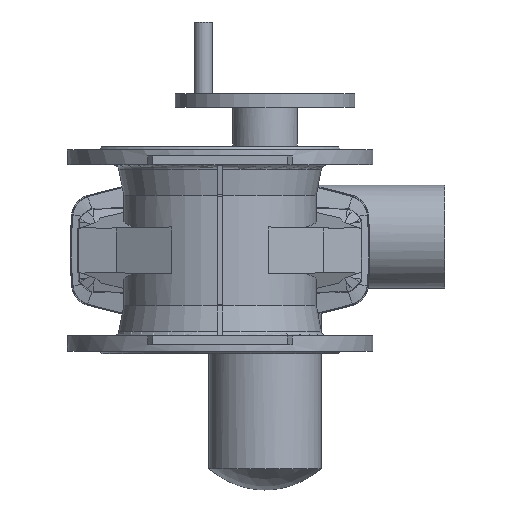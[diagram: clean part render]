
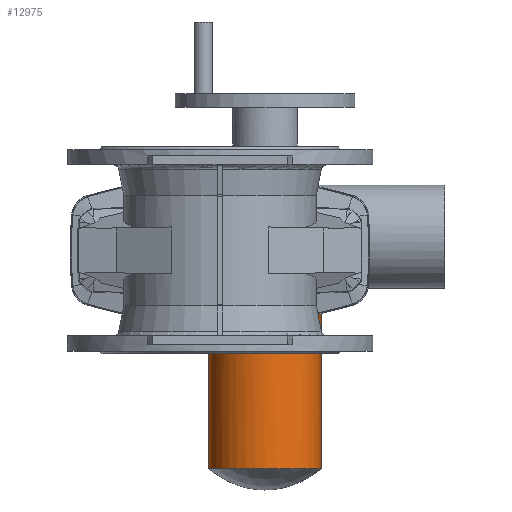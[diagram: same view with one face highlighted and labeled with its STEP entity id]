
A CAD part, front view. The second image highlights one B-rep face of the part: STEP entity #12975.
In plain terms, the highlighted cylindrical face has radius 62.5 mm (diameter 125 mm), a full revolution.
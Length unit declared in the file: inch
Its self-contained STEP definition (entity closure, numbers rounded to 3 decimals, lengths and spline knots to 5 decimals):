
#362 = ORIENTED_EDGE ( 'NONE', *, *, #5127, .T. ) ;
#363 = ORIENTED_EDGE ( 'NONE', *, *, #5097, .F. ) ;
#386 = EDGE_LOOP ( 'NONE', ( #362 ) ) ;
#391 = EDGE_LOOP ( 'NONE', ( #363, #1562 ) ) ;
#1562 = ORIENTED_EDGE ( 'NONE', *, *, #5119, .T. ) ;
#1690 = AXIS2_PLACEMENT_3D ( 'NONE', #5701, #5702, #5703 ) ;
#1706 = AXIS2_PLACEMENT_3D ( 'NONE', #12009, #12010, #12011 ) ;
#5097 = EDGE_CURVE ( 'NONE', #12326, #12353, #5930, .T. ) ;
#5119 = EDGE_CURVE ( 'NONE', #12326, #12353, #11228, .T. ) ;
#5127 = EDGE_CURVE ( 'NONE', #10317, #10317, #5958, .T. ) ;
#5701 = CARTESIAN_POINT ( 'NONE',  ( 1.9685, 21.10236, -2.36787 ) ) ;
#5702 = DIRECTION ( 'NONE',  ( 0., 0., 1. ) ) ;
#5703 = DIRECTION ( 'NONE',  ( 1., 0., 0. ) ) ;
#5886 = CARTESIAN_POINT ( 'NONE',  ( 0.58341, 19.06609, -2.39213 ) ) ;
#5894 = CARTESIAN_POINT ( 'NONE',  ( 0.66926, 19.01271, -2.36787 ) ) ;
#5930 = CIRCLE ( 'NONE', #1690, 2.46063 ) ;
#5958 = CIRCLE ( 'NONE', #1706, 2.46063 ) ;
#6900 = FACE_OUTER_BOUND ( 'NONE', #386, .T. ) ;
#6905 = FACE_OUTER_BOUND ( 'NONE', #391, .T. ) ;
#6907 = CYLINDRICAL_SURFACE ( 'NONE', #8407, 2.46063 ) ;
#8407 = AXIS2_PLACEMENT_3D ( 'NONE', #9714, #9710, #9711 ) ;
#9609 = CARTESIAN_POINT ( 'NONE',  ( 0.66926, 19.01271, -2.36787 ) ) ;
#9628 = CARTESIAN_POINT ( 'NONE',  ( 0.66926, 23.19202, -2.36787 ) ) ;
#9710 = DIRECTION ( 'NONE',  ( 0., 0., 1. ) ) ;
#9711 = DIRECTION ( 'NONE',  ( 1., 0., 0. ) ) ;
#9714 = CARTESIAN_POINT ( 'NONE',  ( 1.9685, 21.10236, 0.59055 ) ) ;
#10317 = VERTEX_POINT ( 'NONE', #10509 ) ;
#10509 = CARTESIAN_POINT ( 'NONE',  ( 4.42913, 21.10236, -9.56172 ) ) ;
#11228 = B_SPLINE_CURVE_WITH_KNOTS ( 'NONE', 3,
 ( #5894, #5886, #11912, #11913, #11914, #11915, #11916, #11917, #11918, #11919, #11920, #11921, #11922, #11923, #11924, #11925, #11926, #11927, #11928, #11929, #11930, #11931, #11932, #11933, #11934, #11935, #11936, #11937, #11938, #11939, #11940, #11941, #11942, #11943, #11944, #11945, #11946, #11947, #11948, #11949, #11950, #11951, #11952, #11953, #11954, #11955, #11956, #11957, #11958, #11959, #11960, #11961 ),
 .UNSPECIFIED., .F., .F.,
 ( 4, 2, 2, 2, 2, 2, 2, 2, 2, 2, 2, 2, 2, 2, 2, 2, 2, 2, 2, 2, 2, 2, 2, 2, 2, 4 ),
 ( 0.47887, 0.48677, 0.48875, 0.49072, 0.49467, 0.50257, 0.50454, 0.50652, 0.51047, 0.51837, 0.52232, 0.52626, 0.53416, 0.54206, 0.54404, 0.54601, 0.54996, 0.55786, 0.56181, 0.56576, 0.57366, 0.58155, 0.58945, 0.59735, 0.6013, 0.60525 ),
 .UNSPECIFIED. ) ;
#11912 = CARTESIAN_POINT ( 'NONE',  ( 0.49975, 19.12541, -2.41075 ) ) ;
#11913 = CARTESIAN_POINT ( 'NONE',  ( 0.39857, 19.20745, -2.42822 ) ) ;
#11914 = CARTESIAN_POINT ( 'NONE',  ( 0.37849, 19.22427, -2.43143 ) ) ;
#11915 = CARTESIAN_POINT ( 'NONE',  ( 0.33902, 19.25841, -2.43725 ) ) ;
#11916 = CARTESIAN_POINT ( 'NONE',  ( 0.31958, 19.27578, -2.43987 ) ) ;
#11917 = CARTESIAN_POINT ( 'NONE',  ( 0.26214, 19.32874, -2.44693 ) ) ;
#11918 = CARTESIAN_POINT ( 'NONE',  ( 0.22502, 19.36522, -2.45058 ) ) ;
#11919 = CARTESIAN_POINT ( 'NONE',  ( 0.11722, 19.47809, -2.45889 ) ) ;
#11920 = CARTESIAN_POINT ( 'NONE',  ( 0.05005, 19.55793, -2.46091 ) ) ;
#11921 = CARTESIAN_POINT ( 'NONE',  ( -0.02781, 19.66357, -2.46052 ) ) ;
#11922 = CARTESIAN_POINT ( 'NONE',  ( -0.0431, 19.68503, -2.4603 ) ) ;
#11923 = CARTESIAN_POINT ( 'NONE',  ( -0.0729, 19.72829, -2.4596 ) ) ;
#11924 = CARTESIAN_POINT ( 'NONE',  ( -0.08741, 19.75011, -2.45912 ) ) ;
#11925 = CARTESIAN_POINT ( 'NONE',  ( -0.12983, 19.81612, -2.45737 ) ) ;
#11926 = CARTESIAN_POINT ( 'NONE',  ( -0.15661, 19.86087, -2.45577 ) ) ;
#11927 = CARTESIAN_POINT ( 'NONE',  ( -0.23249, 19.9973, -2.45015 ) ) ;
#11928 = CARTESIAN_POINT ( 'NONE',  ( -0.27718, 20.09118, -2.44528 ) ) ;
#11929 = CARTESIAN_POINT ( 'NONE',  ( -0.33532, 20.23645, -2.43775 ) ) ;
#11930 = CARTESIAN_POINT ( 'NONE',  ( -0.35322, 20.28562, -2.4352 ) ) ;
#11931 = CARTESIAN_POINT ( 'NONE',  ( -0.38597, 20.3855, -2.43023 ) ) ;
#11932 = CARTESIAN_POINT ( 'NONE',  ( -0.40067, 20.43571, -2.42783 ) ) ;
#11933 = CARTESIAN_POINT ( 'NONE',  ( -0.43982, 20.58707, -2.42115 ) ) ;
#11934 = CARTESIAN_POINT ( 'NONE',  ( -0.45937, 20.68898, -2.41741 ) ) ;
#11935 = CARTESIAN_POINT ( 'NONE',  ( -0.48555, 20.89481, -2.41228 ) ) ;
#11936 = CARTESIAN_POINT ( 'NONE',  ( -0.49218, 20.99873, -2.4109 ) ) ;
#11937 = CARTESIAN_POINT ( 'NONE',  ( -0.49211, 21.12992, -2.41092 ) ) ;
#11938 = CARTESIAN_POINT ( 'NONE',  ( -0.49168, 21.15627, -2.41101 ) ) ;
#11939 = CARTESIAN_POINT ( 'NONE',  ( -0.48997, 21.20875, -2.41136 ) ) ;
#11940 = CARTESIAN_POINT ( 'NONE',  ( -0.48869, 21.2349, -2.41161 ) ) ;
#11941 = CARTESIAN_POINT ( 'NONE',  ( -0.48364, 21.31313, -2.41263 ) ) ;
#11942 = CARTESIAN_POINT ( 'NONE',  ( -0.47862, 21.36497, -2.41364 ) ) ;
#11943 = CARTESIAN_POINT ( 'NONE',  ( -0.45873, 21.51954, -2.41753 ) ) ;
#11944 = CARTESIAN_POINT ( 'NONE',  ( -0.43902, 21.62135, -2.42129 ) ) ;
#11945 = CARTESIAN_POINT ( 'NONE',  ( -0.39976, 21.77222, -2.42798 ) ) ;
#11946 = CARTESIAN_POINT ( 'NONE',  ( -0.38506, 21.8222, -2.43037 ) ) ;
#11947 = CARTESIAN_POINT ( 'NONE',  ( -0.35236, 21.92153, -2.43533 ) ) ;
#11948 = CARTESIAN_POINT ( 'NONE',  ( -0.33429, 21.97102, -2.4379 ) ) ;
#11949 = CARTESIAN_POINT ( 'NONE',  ( -0.27575, 22.11675, -2.44545 ) ) ;
#11950 = CARTESIAN_POINT ( 'NONE',  ( -0.23084, 22.2107, -2.45031 ) ) ;
#11951 = CARTESIAN_POINT ( 'NONE',  ( -0.12942, 22.39241, -2.45775 ) ) ;
#11952 = CARTESIAN_POINT ( 'NONE',  ( -0.07292, 22.48016, -2.46034 ) ) ;
#11953 = CARTESIAN_POINT ( 'NONE',  ( 0.05208, 22.64932, -2.46087 ) ) ;
#11954 = CARTESIAN_POINT ( 'NONE',  ( 0.11917, 22.72883, -2.45879 ) ) ;
#11955 = CARTESIAN_POINT ( 'NONE',  ( 0.26235, 22.87844, -2.44766 ) ) ;
#11956 = CARTESIAN_POINT ( 'NONE',  ( 0.33839, 22.94847, -2.43862 ) ) ;
#11957 = CARTESIAN_POINT ( 'NONE',  ( 0.45901, 23.04628, -2.41778 ) ) ;
#11958 = CARTESIAN_POINT ( 'NONE',  ( 0.50047, 23.07777, -2.40958 ) ) ;
#11959 = CARTESIAN_POINT ( 'NONE',  ( 0.58416, 23.13729, -2.39067 ) ) ;
#11960 = CARTESIAN_POINT ( 'NONE',  ( 0.6265, 23.16543, -2.37995 ) ) ;
#11961 = CARTESIAN_POINT ( 'NONE',  ( 0.66926, 23.19202, -2.36787 ) ) ;
#12009 = CARTESIAN_POINT ( 'NONE',  ( 1.9685, 21.10236, -9.56172 ) ) ;
#12010 = DIRECTION ( 'NONE',  ( 0., 0., 1. ) ) ;
#12011 = DIRECTION ( 'NONE',  ( 1., 0., 0. ) ) ;
#12326 = VERTEX_POINT ( 'NONE', #9609 ) ;
#12353 = VERTEX_POINT ( 'NONE', #9628 ) ;
#12975 = ADVANCED_FACE ( 'NONE', ( #6900, #6905 ), #6907, .T. ) ;
